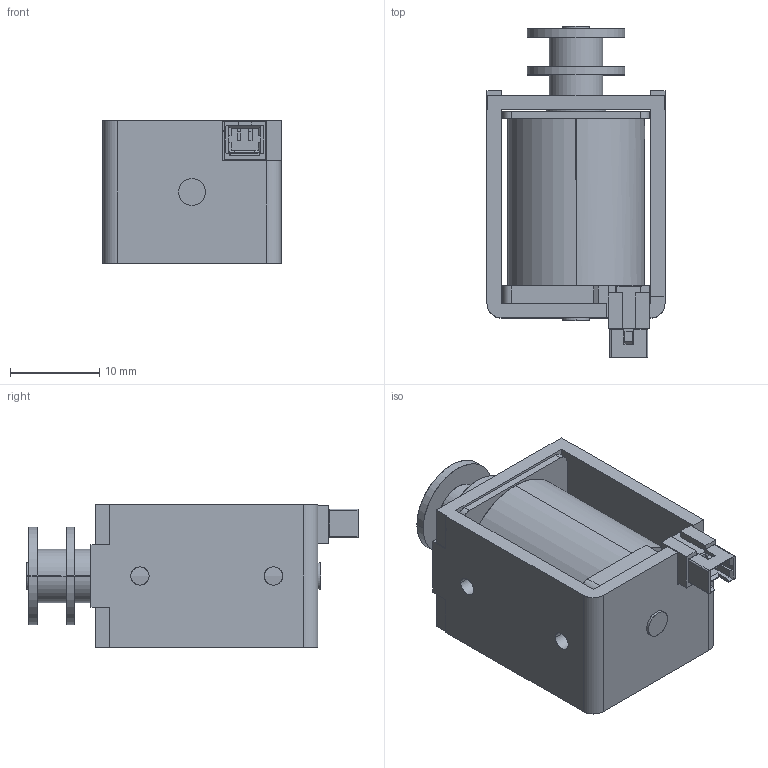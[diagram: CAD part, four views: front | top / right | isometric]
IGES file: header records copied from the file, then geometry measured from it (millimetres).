
Start section: SolidWorks IGES file using analytic representation for surfaces
Global section: file name: L:\カタログ\web用3Dデータ\CFD0625\3D_CFD0625\w_cfd0625.IGS; native system: SolidWorks 2014; preprocessor: SolidWorks 2014; author: jiba; date: 140729.105901; units: millimetre
Bounding box: 20 x 37.3 x 16 mm (x, y, z)
Surface area: 5628.2 mm2 (no closed solid volume)
Topology: 0 solids, 0 shells, 246 faces, 2444 edges, 2444 vertices
Faces by surface type: bspline 188, revolution 58
